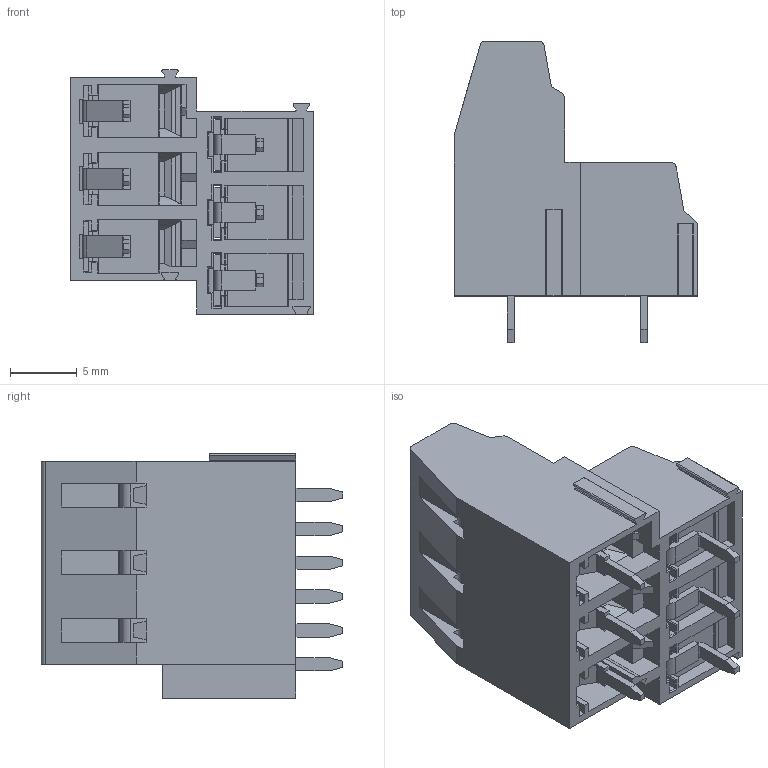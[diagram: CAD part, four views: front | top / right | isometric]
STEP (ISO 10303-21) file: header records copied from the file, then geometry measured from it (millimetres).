
FILE_DESCRIPTION((''),'2;1');
FILE_NAME('ASM0001_ASM','2021-04-13T',('guoxue_sz'),(''),'CREO PARAMETRIC BY PTC INC, 2016260','CREO PARAMETRIC BY PTC INC, 2016260','');
FILE_SCHEMA(('CONFIG_CONTROL_DESIGN'));
Products named in the file (21): 3_1; LS-12450; FK-13923; JZ02-15311; LS-16549; FK-18022; JZ02-19410; LS-20648; FK-22121; JZ02-23509; LS-24747; FK-26220; JZ01-27608; LS-28854; FK-30327; JZ01-31715; LS-32961; FK-34434; JZ01-35822; 3PIN_1_ASM; ASM0001_ASM
Assembly tree (20 placements, depth 3):
  ASM0001_ASM
    3PIN_1_ASM
      3_1
      LS-12450
      FK-13923
      JZ02-15311
      LS-16549
      FK-18022
      JZ02-19410
      LS-20648
      FK-22121
      JZ02-23509
      LS-24747
      FK-26220
      JZ01-27608
      LS-28854
      FK-30327
      JZ01-31715
      LS-32961
      FK-34434
      JZ01-35822
Bounding box: 18.3 x 22.6 x 18.33 mm (x, y, z)
Volume: 2129.4 mm3; surface area: 5770.6 mm2
Topology: 19 solids, 19 shells, 1241 faces, 3579 edges, 2417 vertices
Faces by surface type: plane 749, cylinder 324, bspline 120, torus 48
Entity records: 66581 total; most frequent: CARTESIAN_POINT 34409, ORIENTED_EDGE 7158, DIRECTION 5868, EDGE_CURVE 3579, VERTEX_POINT 2417, VECTOR 2192, LINE 2192, AXIS2_PLACEMENT_3D 1838
